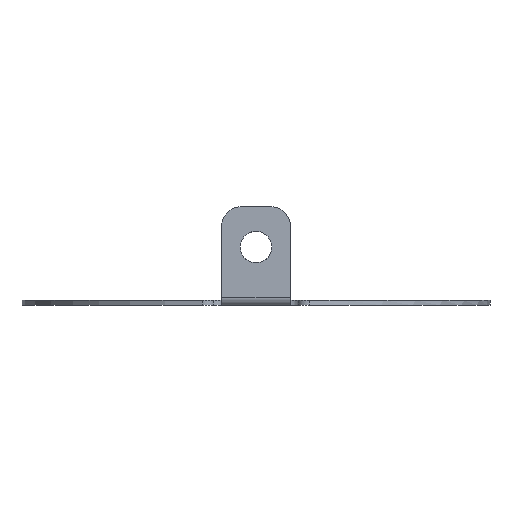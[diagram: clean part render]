
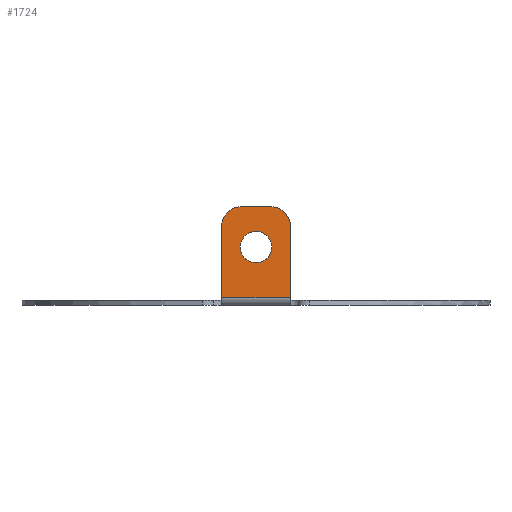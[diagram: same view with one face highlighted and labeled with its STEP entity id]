
A CAD part, front view. The second image highlights one B-rep face of the part: STEP entity #1724.
In plain terms, the highlighted planar face has unit normal (0, -1, 0).
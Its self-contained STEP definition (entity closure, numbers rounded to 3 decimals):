
#1424=CARTESIAN_POINT('Vertex',(3.5,-23.65,0.75)) ;
#1427=CARTESIAN_POINT('Line Origine',(0.,-23.65,0.75)) ;
#1431=CARTESIAN_POINT('Vertex',(-3.5,-23.65,0.75)) ;
#1512=CARTESIAN_POINT('Vertex',(3.5,-23.65,8.)) ;
#1515=CARTESIAN_POINT('Line Origine',(3.5,-23.65,4.375)) ;
#1532=CARTESIAN_POINT('Axis2P3D Location',(1.5,-23.65,8.)) ;
#1536=CARTESIAN_POINT('Vertex',(1.5,-23.65,10.)) ;
#1558=CARTESIAN_POINT('Line Origine',(0.,-23.65,10.)) ;
#1562=CARTESIAN_POINT('Vertex',(-1.5,-23.65,10.)) ;
#1589=CARTESIAN_POINT('Axis2P3D Location',(-1.5,-23.65,8.)) ;
#1593=CARTESIAN_POINT('Vertex',(-3.5,-23.65,8.)) ;
#1615=CARTESIAN_POINT('Line Origine',(-3.5,-23.65,4.375)) ;
#1680=CARTESIAN_POINT('Vertex',(1.6,-23.65,5.9)) ;
#1683=CARTESIAN_POINT('Axis2P3D Location',(0.,-23.65,5.9)) ;
#1687=CARTESIAN_POINT('Vertex',(-1.6,-23.65,5.9)) ;
#1702=CARTESIAN_POINT('Axis2P3D Location',(0.,-23.65,0.5)) ;
#1715=CARTESIAN_POINT('Axis2P3D Location',(0.,-23.65,5.9)) ;
#1429=VECTOR('Line Direction',#1428,1.) ;
#1517=VECTOR('Line Direction',#1516,1.) ;
#1560=VECTOR('Line Direction',#1559,1.) ;
#1617=VECTOR('Line Direction',#1616,1.) ;
#1428=DIRECTION('Vector Direction',(-1.,0.,0.)) ;
#1516=DIRECTION('Vector Direction',(0.,0.,1.)) ;
#1533=DIRECTION('Axis2P3D Direction',(0.,1.,0.)) ;
#1559=DIRECTION('Vector Direction',(1.,0.,0.)) ;
#1590=DIRECTION('Axis2P3D Direction',(0.,1.,0.)) ;
#1616=DIRECTION('Vector Direction',(0.,0.,1.)) ;
#1684=DIRECTION('Axis2P3D Direction',(0.,1.,0.)) ;
#1703=DIRECTION('Axis2P3D Direction',(0.,1.,0.)) ;
#1704=DIRECTION('Axis2P3D XDirection',(-1.,0.,0.)) ;
#1716=DIRECTION('Axis2P3D Direction',(0.,1.,0.)) ;
#1534=AXIS2_PLACEMENT_3D('Circle Axis2P3D',#1532,#1533,$) ;
#1591=AXIS2_PLACEMENT_3D('Circle Axis2P3D',#1589,#1590,$) ;
#1685=AXIS2_PLACEMENT_3D('Circle Axis2P3D',#1683,#1684,$) ;
#1705=AXIS2_PLACEMENT_3D('Plane Axis2P3D',#1702,#1703,#1704) ;
#1717=AXIS2_PLACEMENT_3D('Circle Axis2P3D',#1715,#1716,$) ;
#1430=LINE('Line',#1427,#1429) ;
#1518=LINE('Line',#1515,#1517) ;
#1561=LINE('Line',#1558,#1560) ;
#1618=LINE('Line',#1615,#1617) ;
#1535=CIRCLE('generated circle',#1534,2.) ;
#1592=CIRCLE('generated circle',#1591,2.) ;
#1686=CIRCLE('generated circle',#1685,1.6) ;
#1718=CIRCLE('generated circle',#1717,1.6) ;
#1706=PLANE('',#1705) ;
#1723=FACE_BOUND('',#1720,.T.) ;
#1433=EDGE_CURVE('',#1425,#1432,#1430,.T.) ;
#1519=EDGE_CURVE('',#1425,#1513,#1518,.T.) ;
#1538=EDGE_CURVE('',#1537,#1513,#1535,.T.) ;
#1564=EDGE_CURVE('',#1563,#1537,#1561,.T.) ;
#1595=EDGE_CURVE('',#1594,#1563,#1592,.T.) ;
#1619=EDGE_CURVE('',#1432,#1594,#1618,.T.) ;
#1689=EDGE_CURVE('',#1688,#1681,#1686,.T.) ;
#1719=EDGE_CURVE('',#1681,#1688,#1718,.T.) ;
#1707=EDGE_LOOP('',(#1708,#1709,#1710,#1711,#1712,#1713)) ;
#1720=EDGE_LOOP('',(#1721,#1722)) ;
#1708=ORIENTED_EDGE('',*,*,#1619,.F.) ;
#1709=ORIENTED_EDGE('',*,*,#1433,.F.) ;
#1710=ORIENTED_EDGE('',*,*,#1519,.T.) ;
#1711=ORIENTED_EDGE('',*,*,#1538,.F.) ;
#1712=ORIENTED_EDGE('',*,*,#1564,.F.) ;
#1713=ORIENTED_EDGE('',*,*,#1595,.F.) ;
#1721=ORIENTED_EDGE('',*,*,#1689,.T.) ;
#1722=ORIENTED_EDGE('',*,*,#1719,.T.) ;
#1425=VERTEX_POINT('',#1424) ;
#1432=VERTEX_POINT('',#1431) ;
#1513=VERTEX_POINT('',#1512) ;
#1537=VERTEX_POINT('',#1536) ;
#1563=VERTEX_POINT('',#1562) ;
#1594=VERTEX_POINT('',#1593) ;
#1681=VERTEX_POINT('',#1680) ;
#1688=VERTEX_POINT('',#1687) ;
#1724=ADVANCED_FACE('Corps principal',(#1714,#1723),#1706,.F.) ;
#1714=FACE_OUTER_BOUND('',#1707,.T.) ;
